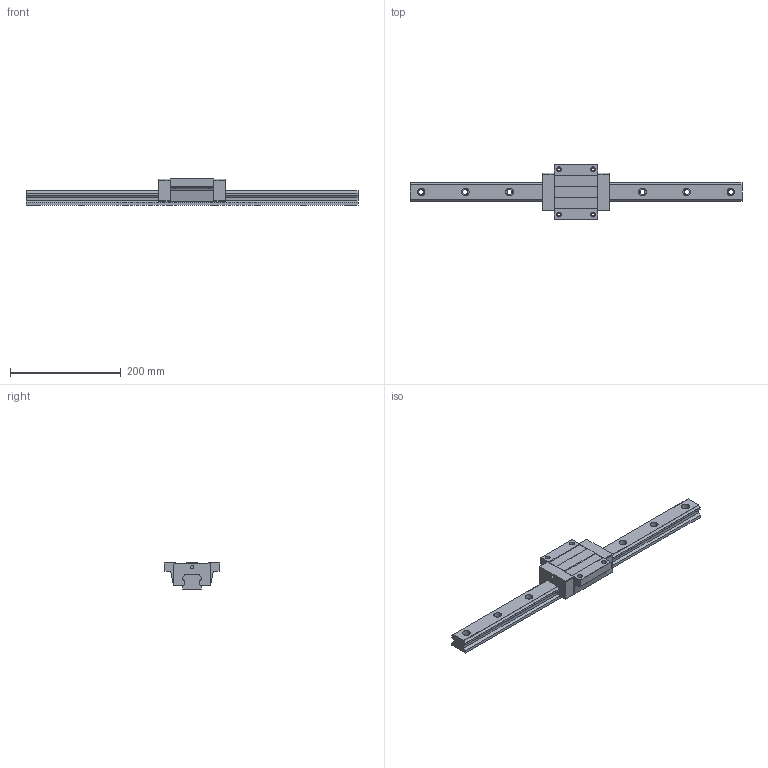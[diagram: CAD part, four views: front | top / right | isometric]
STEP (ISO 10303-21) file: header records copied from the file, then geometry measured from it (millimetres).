
FILE_DESCRIPTION (( 'STEP AP203' ), '1' );
FILE_NAME ('TRH35FN-WW-§ï.STEP', '2023-08-30T02:19:27', ( '' ), ( '' ), 'SwSTEP 2.0', 'SolidWorks 2022', '' );
FILE_SCHEMA (( 'CONFIG_CONTROL_DESIGN' ));
Length unit declared in the file: millimetre
Products named in the file (1): TRH35FN-WW-改
Bounding box: 600 x 100 x 48 mm (x, y, z)
Volume: 742283.6 mm3; surface area: 119687.7 mm2
Topology: 1 solids, 1 shells, 188 faces, 532 edges, 348 vertices
Faces by surface type: plane 98, cylinder 90
Entity records: 6509 total; most frequent: CARTESIAN_POINT 1329, DIRECTION 1086, ORIENTED_EDGE 1064, EDGE_CURVE 532, AXIS2_PLACEMENT_3D 373, VERTEX_POINT 348, VECTOR 340, LINE 340
